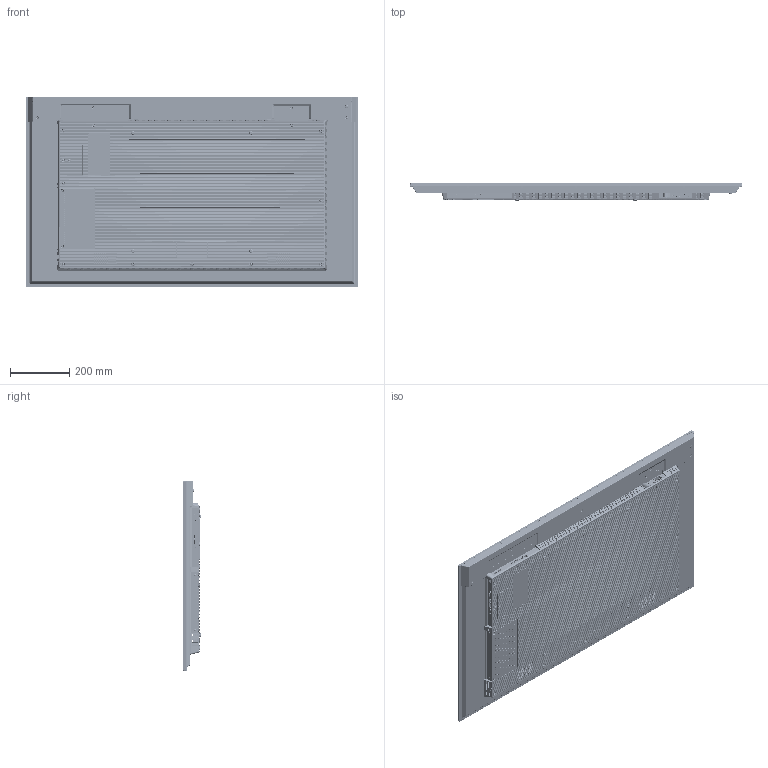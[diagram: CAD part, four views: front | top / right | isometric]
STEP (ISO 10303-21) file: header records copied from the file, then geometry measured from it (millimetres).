
FILE_DESCRIPTION(/* description */ (''),/* implementation_level */ '2;1');
FILE_NAME(/* name */ '00_50U_total_asm_75XL-1207.stp',/* time_stamp */ '2023-12-07T11:13:12+08:00',/* author */ (''),/* organization */ (''),/* preprocessor_version */ 'ST-DEVELOPER v14',/* originating_system */ 'SIEMENS PLM Software NX 8.0',/* authorisation */ '');
FILE_SCHEMA (('AUTOMOTIVE_DESIGN { 1 0 10303 214 3 1 1 1 }'));
Products named in the file (1): 4073307C27CF86pp
Bounding box: 1122.69 x 58.67 x 643.6 mm (x, y, z)
Volume: 14719983.7 mm3; surface area: 3097294.4 mm2
Topology: 10 solids, 19 shells, 24054 faces, 71853 edges, 46454 vertices
Faces by surface type: plane 17180, cylinder 4502, cone 895, torus 883, bspline 552, extrusion 28, sphere 14
Full cylindrical faces by diameter (mm): 2.7 x2, 3.2 x1, 3.7 x1, 3.8 x1, 4.2 x1, 4.3 x1, 5.3 x10, 5.4 x4, 5.5 x1, 6 x2, 7 x2, 7.5 x1, 8 x4, 11.5 x2, 13.5 x5, 14.3 x7
Entity records: 1104886 total; most frequent: CARTESIAN_POINT 300364, ORIENTED_EDGE 143096, DIRECTION 119814, EDGE_CURVE 71548, VECTOR 53350, LINE 53322, VERTEX_POINT 46335, AXIS2_PLACEMENT_3D 33232
